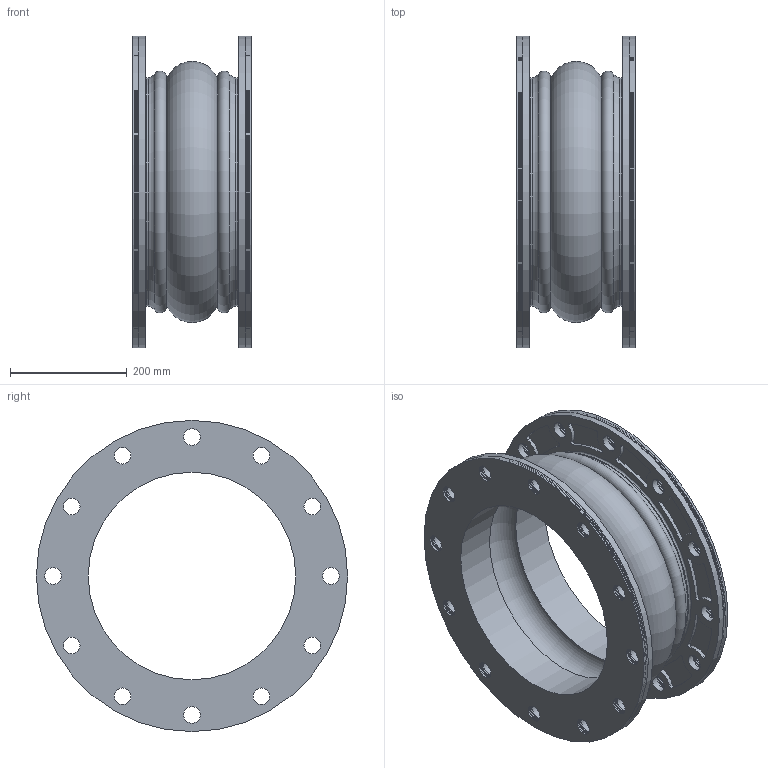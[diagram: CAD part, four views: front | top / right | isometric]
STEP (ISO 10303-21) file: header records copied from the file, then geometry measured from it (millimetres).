
FILE_DESCRIPTION((''),'2;1');
FILE_NAME('N:\StockJoints-ADSK, IGES, STEP, PNG\STEP\451 14x8.stp','2013-05-23T11:52:51',('mquog'),(''),'Autodesk Inventor 2011','Autodesk Inventor 2011','');
FILE_SCHEMA(('AUTOMOTIVE_DESIGN { 1 0 10303 214 1 1 1 1 }'));
Length unit declared in the file: inch
Products named in the file (3): 451 14x8; Style451 14x8; 14DI450BUR150
Assembly tree (3 placements, depth 2):
  451 14x8
    Style451 14x8
    14DI450BUR150  x2
Bounding box: 203.2 x 533.4 x 533.4 mm (x, y, z)
Volume: 8548886.5 mm3; surface area: 7862302 mm2
Topology: 14 solids, 14 shells, 554 faces, 1406 edges, 914 vertices
Faces by surface type: cylinder 440, plane 62, torus 52
Full cylindrical faces by diameter (mm): 28.575 x192, 355.6 x2, 361.95 x4, 368.3 x8, 370.332 x4, 372.364 x4, 374.396 x4, 376.428 x4, 379.603 x2, 382.588 x2, 387.35 x2, 392.113 x2, 530.225 x14, 533.4 x4
Entity records: 12543 total; most frequent: DIRECTION 2332, CARTESIAN_POINT 1902, ORIENTED_EDGE 1568, AXIS2_PLACEMENT_3D 1118, EDGE_LOOP 1112, EDGE_CURVE 784, VERTEX_POINT 688, CIRCLE 688
